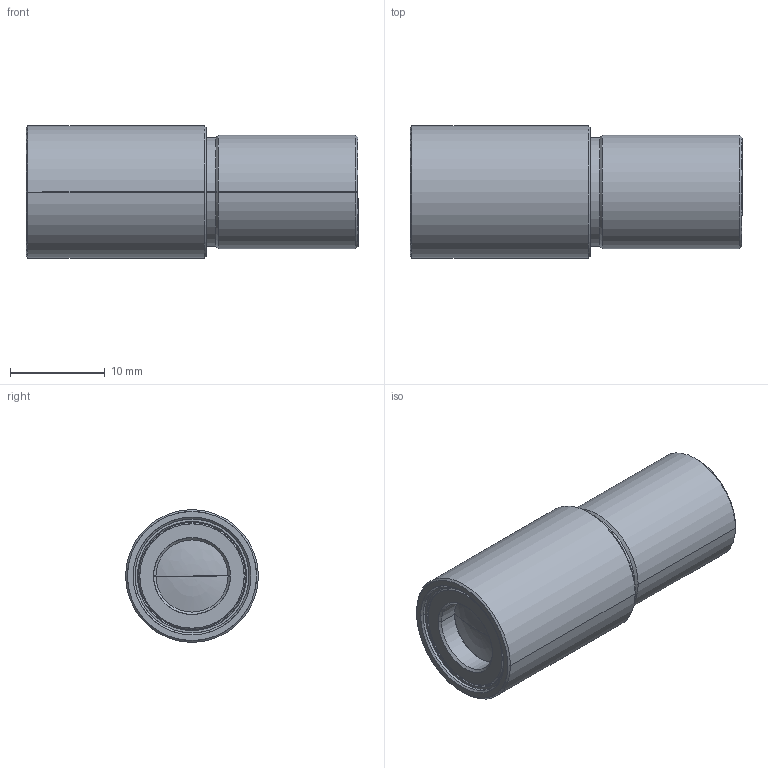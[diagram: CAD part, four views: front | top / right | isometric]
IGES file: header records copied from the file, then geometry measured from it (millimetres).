
Start section: SolidWorks IGES file using analytic representation for surfaces
Bounding box: 35 x 14 x 14 mm (x, y, z)
Surface area: 1903.7 mm2 (no closed solid volume)
Topology: 0 solids, 0 shells, 50 faces, 560 edges, 558 vertices
Faces by surface type: revolution 44, bspline 6
